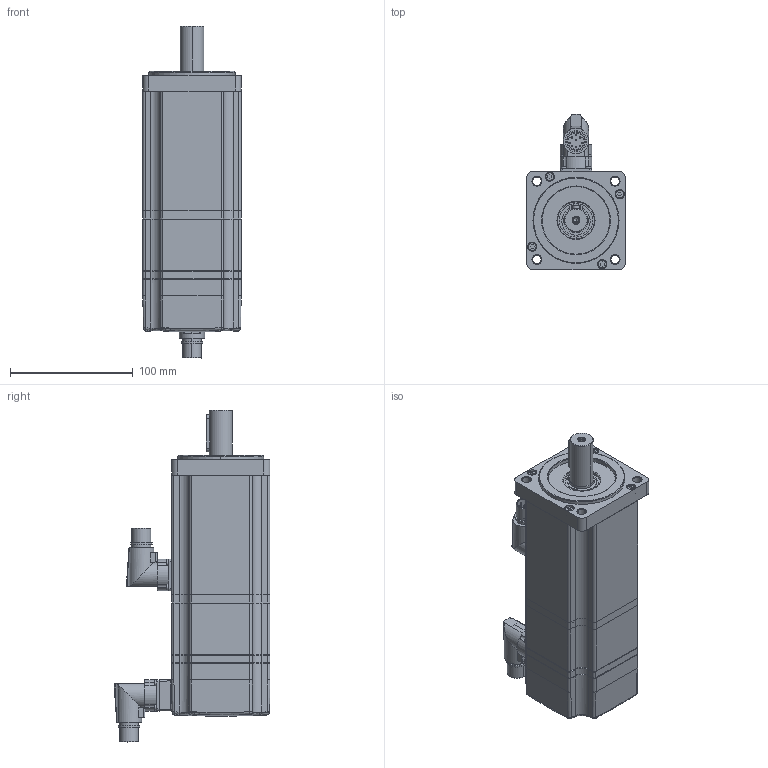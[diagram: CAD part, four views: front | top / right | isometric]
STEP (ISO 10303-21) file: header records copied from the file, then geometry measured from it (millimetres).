
FILE_DESCRIPTION((''),'2;1');
FILE_NAME('S0802B-8P-FE-DA19-70-90-C11C2_ASM','2020-11-24T',('dannyr'),(''),'CREO PARAMETRIC BY PTC INC, 2014500','CREO PARAMETRIC BY PTC INC, 2014500','');
FILE_SCHEMA(('AUTOMOTIVE_DESIGN { 1 0 10303 214 1 1 1 1 }'));
Length unit declared in the file: millimetre
Products named in the file (17): TUB08P-021; FLM08P-008; TUB08P-004; FLM08P-001; FLM08P-002; CAL08P-001; TCCE4X16; AMT08P-094; LNG006-001; TBCE4X45; CONM-INTERCONT-9P; CONM-INTERCONT-17P; V2_5-5--_-_U9327_GC; 6004-2RS1; 6001-2Z; A20--_-_U7435; S0802B-8P-FE-DA19-70-90-C11C2_ASM
Assembly tree (29 placements, depth 2):
  S0802B-8P-FE-DA19-70-90-C11C2_ASM
    TUB08P-021
    FLM08P-008
    TUB08P-004
    FLM08P-001
    FLM08P-002
    CAL08P-001
    TCCE4X16  x4
    AMT08P-094
    LNG006-001
    TBCE4X45  x4
    CONM-INTERCONT-9P
    CONM-INTERCONT-17P
    V2_5-5--_-_U9327_GC  x8
    6004-2RS1
    6001-2Z
    A20--_-_U7435
Bounding box: 80.01 x 126.8 x 270 mm (x, y, z)
Volume: 501070 mm3; surface area: 230353.2 mm2
Topology: 29 solids, 31 shells, 1452 faces, 3381 edges, 2077 vertices
Faces by surface type: cylinder 633, plane 457, cone 203, torus 73, sphere 72, bspline 14
Entity records: 38717 total; most frequent: CARTESIAN_POINT 7345, DIRECTION 6498, ORIENTED_EDGE 5506, EDGE_CURVE 2753, AXIS2_PLACEMENT_3D 2656, VERTEX_POINT 1725, EDGE_LOOP 1454, CIRCLE 1433
